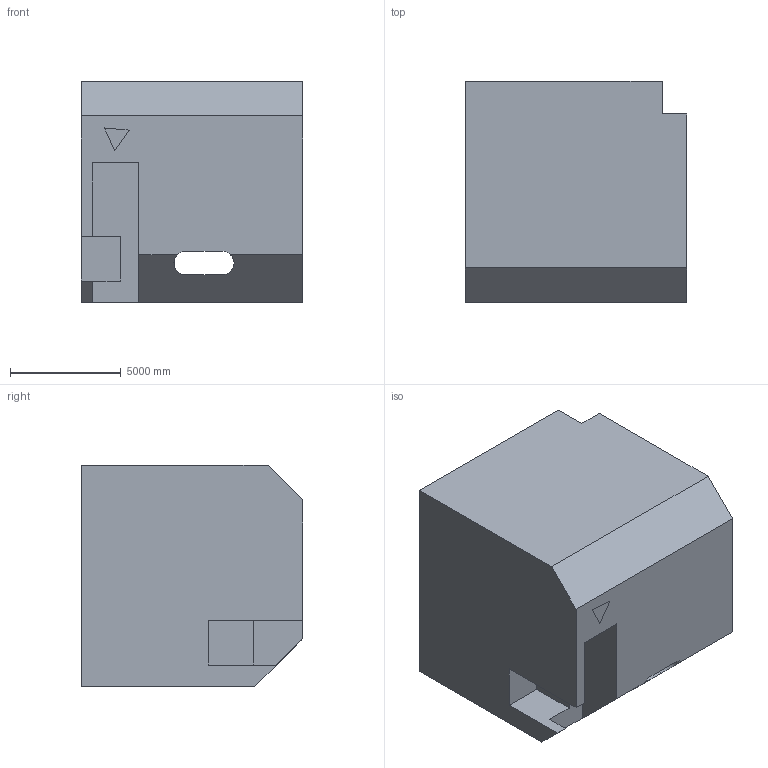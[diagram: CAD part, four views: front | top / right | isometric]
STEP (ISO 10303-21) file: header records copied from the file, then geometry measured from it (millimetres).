
FILE_DESCRIPTION (( 'STEP AP203' ), '1' );
FILE_NAME ('1804.STEP', '2022-08-19T13:02:35', ( 'user' ), ( '' ), 'SwSTEP 2.0', 'SolidWorks 2021', '' );
FILE_SCHEMA (( 'CONFIG_CONTROL_DESIGN' ));
Length unit declared in the file: centimetre
Products named in the file (1): 1804
Bounding box: 10000 x 10000 x 10000 mm (x, y, z)
Volume: 846571841626.4 mm3; surface area: 687619067.5 mm2
Topology: 1 solids, 1 shells, 39 faces, 111 edges, 74 vertices
Faces by surface type: plane 36, cylinder 3
Entity records: 1438 total; most frequent: CARTESIAN_POINT 338, ORIENTED_EDGE 222, DIRECTION 195, EDGE_CURVE 111, VECTOR 101, LINE 101, VERTEX_POINT 74, AXIS2_PLACEMENT_3D 47
